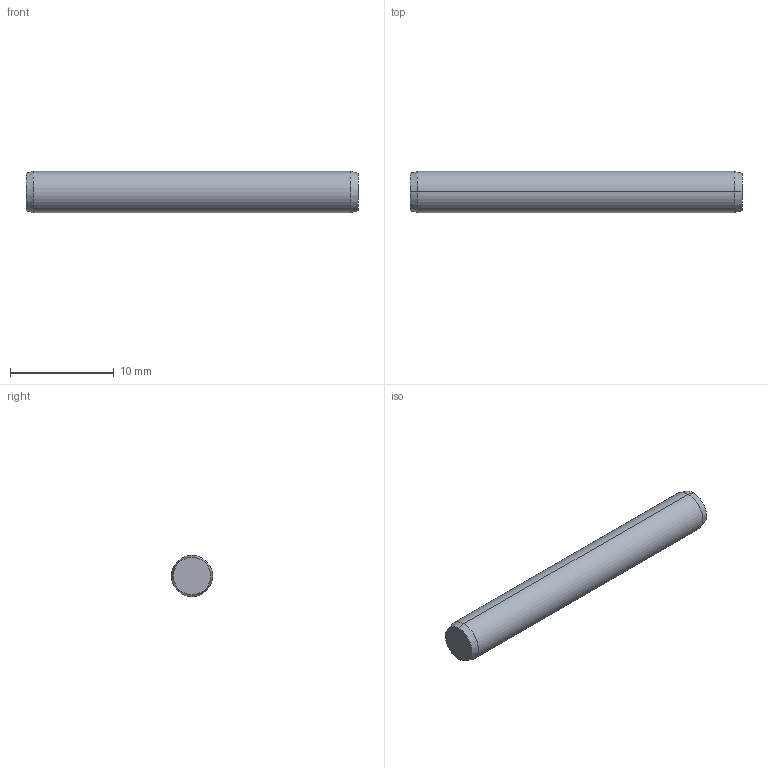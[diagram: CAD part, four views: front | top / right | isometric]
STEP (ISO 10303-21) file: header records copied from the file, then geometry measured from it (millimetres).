
FILE_DESCRIPTION (( 'STEP AP203' ), '1' );
FILE_NAME ('P1206.040-032.step', '2017-06-14T08:11:45', ( 'User' ), ( '' ), 'SwSTEP 2.0', 'SolidWorks 2009', '' );
FILE_SCHEMA (( 'CONFIG_CONTROL_DESIGN' ));
Length unit declared in the file: millimetre
Products named in the file (1): P1206.040-032
Bounding box: 32 x 4 x 4 mm (x, y, z)
Volume: 400.5 mm3; surface area: 422.5 mm2
Topology: 1 solids, 1 shells, 8 faces, 14 edges, 8 vertices
Faces by surface type: cone 4, cylinder 2, plane 2
Entity records: 271 total; most frequent: DIRECTION 40, CARTESIAN_POINT 31, ORIENTED_EDGE 28, AXIS2_PLACEMENT_3D 17, EDGE_CURVE 14, CIRCLE 8, FACE_OUTER_BOUND 8, PERSON_AND_ORGANIZATION 8
